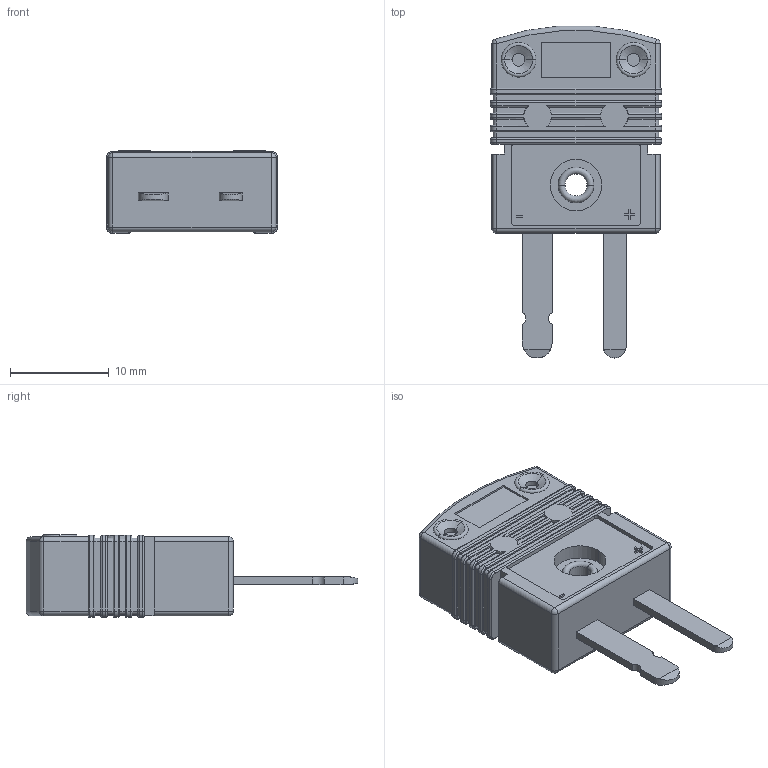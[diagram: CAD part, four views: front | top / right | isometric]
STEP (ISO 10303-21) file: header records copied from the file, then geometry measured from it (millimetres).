
FILE_DESCRIPTION (( 'STEP AP214' ), '1' );
FILE_NAME ('CONN-TMC-K-2PM.STEP', '2024-06-24T14:37:38', ( '' ), ( '' ), 'SwSTEP 2.0', 'SolidWorks 2021', '' );
FILE_SCHEMA (( 'AUTOMOTIVE_DESIGN' ));
Length unit declared in the file: millimetre
Products named in the file (1): CONN-TMC-K-2PM
Bounding box: 17.3 x 33.54 x 8.38 mm (x, y, z)
Surface area: 2181.6 mm2 (no closed solid volume)
Topology: 0 solids, 7 shells, 537 faces, 1212 edges, 674 vertices
Faces by surface type: plane 277, cylinder 174, torus 50, sphere 32, cone 4
Entity records: 14719 total; most frequent: DIRECTION 2672, CARTESIAN_POINT 2578, ORIENTED_EDGE 2372, EDGE_CURVE 1188, AXIS2_PLACEMENT_3D 966, VECTOR 740, LINE 740, VERTEX_POINT 674
